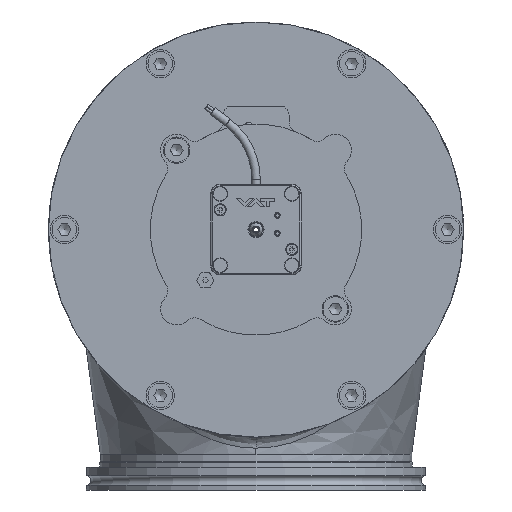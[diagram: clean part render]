
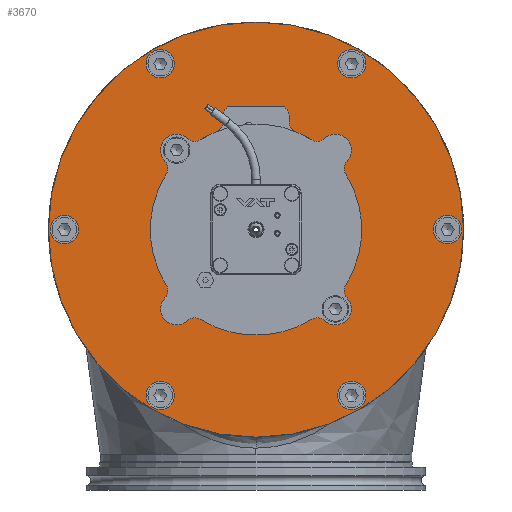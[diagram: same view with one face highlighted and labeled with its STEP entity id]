
A CAD part, left-side view. The second image highlights one B-rep face of the part: STEP entity #3670.
In plain terms, the highlighted planar face has unit normal (-1, 0, 0).
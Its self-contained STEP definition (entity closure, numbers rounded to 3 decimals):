
#3670=ADVANCED_FACE('BCT_REF_99568',(#5423,#5424,#5425,#5426,#5427,#5428,
#5429,#5430,#5431,#5432,#5433,#5434),#4260,.T.);
#4260=PLANE('',#15019);
#4790=CIRCLE('',#14967,110.);
#4814=CIRCLE('',#15008,55.145);
#4815=CIRCLE('',#15009,3.4);
#4816=CIRCLE('',#15010,3.4);
#4817=CIRCLE('',#15011,3.4);
#4818=CIRCLE('',#15012,3.4);
#4819=CIRCLE('',#15013,7.5);
#4820=CIRCLE('',#15014,7.5);
#4821=CIRCLE('',#15015,7.5);
#4822=CIRCLE('',#15016,7.5);
#4823=CIRCLE('',#15017,7.5);
#4824=CIRCLE('',#15018,7.5);
#5423=FACE_BOUND('',#6141,.T.);
#5424=FACE_BOUND('',#6142,.T.);
#5425=FACE_BOUND('',#6143,.T.);
#5426=FACE_BOUND('',#6144,.T.);
#5427=FACE_BOUND('',#6145,.T.);
#5428=FACE_BOUND('',#6146,.T.);
#5429=FACE_BOUND('',#6147,.T.);
#5430=FACE_BOUND('',#6148,.T.);
#5431=FACE_BOUND('',#6149,.T.);
#5432=FACE_BOUND('',#6150,.T.);
#5433=FACE_BOUND('',#6151,.T.);
#5434=FACE_BOUND('',#6152,.T.);
#6141=EDGE_LOOP('',(#7823));
#6142=EDGE_LOOP('',(#7824));
#6143=EDGE_LOOP('',(#7825));
#6144=EDGE_LOOP('',(#7826));
#6145=EDGE_LOOP('',(#7827));
#6146=EDGE_LOOP('',(#7828));
#6147=EDGE_LOOP('',(#7829));
#6148=EDGE_LOOP('',(#7830));
#6149=EDGE_LOOP('',(#7831));
#6150=EDGE_LOOP('',(#7832));
#6151=EDGE_LOOP('',(#7833));
#6152=EDGE_LOOP('',(#7834));
#7823=ORIENTED_EDGE('',*,*,#11852,.T.);
#7824=ORIENTED_EDGE('',*,*,#11853,.T.);
#7825=ORIENTED_EDGE('',*,*,#11854,.T.);
#7826=ORIENTED_EDGE('',*,*,#11855,.T.);
#7827=ORIENTED_EDGE('',*,*,#11856,.T.);
#7828=ORIENTED_EDGE('',*,*,#11857,.T.);
#7829=ORIENTED_EDGE('',*,*,#11858,.T.);
#7830=ORIENTED_EDGE('',*,*,#11859,.T.);
#7831=ORIENTED_EDGE('',*,*,#11860,.T.);
#7832=ORIENTED_EDGE('',*,*,#11861,.T.);
#7833=ORIENTED_EDGE('',*,*,#11862,.T.);
#7834=ORIENTED_EDGE('',*,*,#11827,.T.);
#10505=VERTEX_POINT('',#22914);
#10530=VERTEX_POINT('',#23038);
#10531=VERTEX_POINT('',#23040);
#10532=VERTEX_POINT('',#23042);
#10533=VERTEX_POINT('',#23044);
#10534=VERTEX_POINT('',#23046);
#10535=VERTEX_POINT('',#23048);
#10536=VERTEX_POINT('',#23050);
#10537=VERTEX_POINT('',#23052);
#10538=VERTEX_POINT('',#23054);
#10539=VERTEX_POINT('',#23056);
#10540=VERTEX_POINT('',#23058);
#11827=EDGE_CURVE('',#10505,#10505,#4790,.T.);
#11852=EDGE_CURVE('',#10530,#10530,#4814,.T.);
#11853=EDGE_CURVE('',#10531,#10531,#4815,.T.);
#11854=EDGE_CURVE('',#10532,#10532,#4816,.T.);
#11855=EDGE_CURVE('BCT_REF_99699',#10533,#10533,#4817,.T.);
#11856=EDGE_CURVE('',#10534,#10534,#4818,.T.);
#11857=EDGE_CURVE('',#10535,#10535,#4819,.T.);
#11858=EDGE_CURVE('',#10536,#10536,#4820,.T.);
#11859=EDGE_CURVE('',#10537,#10537,#4821,.T.);
#11860=EDGE_CURVE('BCT_REF_99655',#10538,#10538,#4822,.T.);
#11861=EDGE_CURVE('',#10539,#10539,#4823,.T.);
#11862=EDGE_CURVE('',#10540,#10540,#4824,.T.);
#14967=AXIS2_PLACEMENT_3D('',#22913,#16879,#16880);
#15008=AXIS2_PLACEMENT_3D('',#23037,#16961,#16962);
#15009=AXIS2_PLACEMENT_3D('',#23039,#16963,#16964);
#15010=AXIS2_PLACEMENT_3D('',#23041,#16965,#16966);
#15011=AXIS2_PLACEMENT_3D('',#23043,#16967,#16968);
#15012=AXIS2_PLACEMENT_3D('',#23045,#16969,#16970);
#15013=AXIS2_PLACEMENT_3D('',#23047,#16971,#16972);
#15014=AXIS2_PLACEMENT_3D('',#23049,#16973,#16974);
#15015=AXIS2_PLACEMENT_3D('',#23051,#16975,#16976);
#15016=AXIS2_PLACEMENT_3D('',#23053,#16977,#16978);
#15017=AXIS2_PLACEMENT_3D('',#23055,#16979,#16980);
#15018=AXIS2_PLACEMENT_3D('',#23057,#16981,#16982);
#15019=AXIS2_PLACEMENT_3D('',#23059,#16983,#16984);
#16879=DIRECTION('',(-1.,0.,0.));
#16880=DIRECTION('',(0.,0.,1.));
#16961=DIRECTION('',(1.,0.,0.));
#16962=DIRECTION('',(0.,0.,1.));
#16963=DIRECTION('',(1.,0.,0.));
#16964=DIRECTION('',(0.,-1.,0.));
#16965=DIRECTION('',(1.,0.,0.));
#16966=DIRECTION('',(0.,0.,1.));
#16967=DIRECTION('',(1.,0.,0.));
#16968=DIRECTION('',(0.,1.,0.));
#16969=DIRECTION('',(1.,0.,0.));
#16970=DIRECTION('',(0.,0.,-1.));
#16971=DIRECTION('',(1.,0.,0.));
#16972=DIRECTION('',(0.,-0.866,-0.5));
#16973=DIRECTION('',(1.,0.,0.));
#16974=DIRECTION('',(0.,-0.866,0.5));
#16975=DIRECTION('',(1.,0.,0.));
#16976=DIRECTION('',(0.,0.,1.));
#16977=DIRECTION('',(1.,0.,0.));
#16978=DIRECTION('',(0.,0.866,0.5));
#16979=DIRECTION('',(1.,0.,0.));
#16980=DIRECTION('',(0.,0.866,-0.5));
#16981=DIRECTION('',(1.,0.,0.));
#16982=DIRECTION('',(0.,0.,-1.));
#16983=DIRECTION('',(-1.,0.,0.));
#16984=DIRECTION('',(0.,0.,1.));
#22913=CARTESIAN_POINT('',(0.,0.,0.));
#22914=CARTESIAN_POINT('',(0.,0.,110.));
#23037=CARTESIAN_POINT('',(0.,0.,0.));
#23038=CARTESIAN_POINT('',(0.,0.,55.145));
#23039=CARTESIAN_POINT('',(0.,42.073,42.073));
#23040=CARTESIAN_POINT('',(0.,38.673,42.073));
#23041=CARTESIAN_POINT('',(0.,42.073,-42.073));
#23042=CARTESIAN_POINT('',(0.,42.073,-38.673));
#23043=CARTESIAN_POINT('',(0.,-42.073,-42.073));
#23044=CARTESIAN_POINT('',(0.,-38.673,-42.073));
#23045=CARTESIAN_POINT('',(0.,-42.073,42.073));
#23046=CARTESIAN_POINT('',(0.,-42.073,38.673));
#23047=CARTESIAN_POINT('',(0.,50.75,-87.902));
#23048=CARTESIAN_POINT('',(0.,44.255,-91.652));
#23049=CARTESIAN_POINT('',(0.,-50.75,-87.902));
#23050=CARTESIAN_POINT('',(0.,-57.245,-84.152));
#23051=CARTESIAN_POINT('',(0.,-101.5,0.));
#23052=CARTESIAN_POINT('',(0.,-101.5,7.5));
#23053=CARTESIAN_POINT('',(0.,-50.75,87.902));
#23054=CARTESIAN_POINT('',(0.,-44.255,91.652));
#23055=CARTESIAN_POINT('',(0.,50.75,87.902));
#23056=CARTESIAN_POINT('',(0.,57.245,84.152));
#23057=CARTESIAN_POINT('',(0.,101.5,0.));
#23058=CARTESIAN_POINT('',(0.,101.5,-7.5));
#23059=CARTESIAN_POINT('',(0.,54.645,0.));
